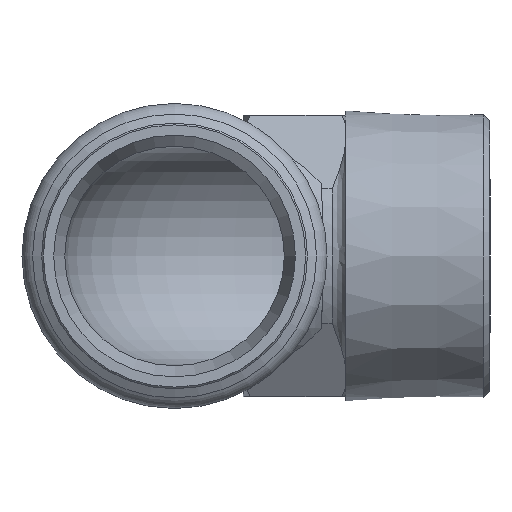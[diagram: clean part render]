
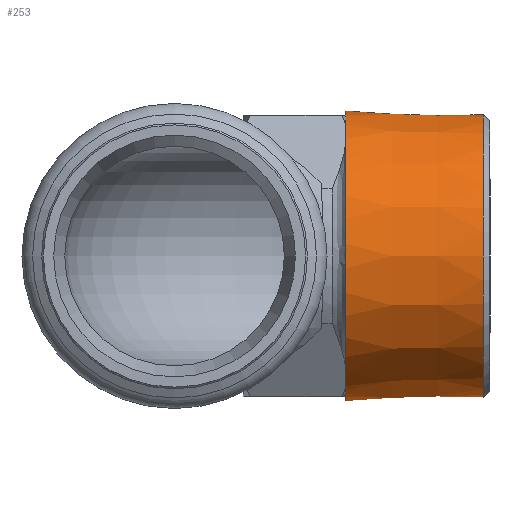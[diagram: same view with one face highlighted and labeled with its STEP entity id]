
A CAD part, left-side view. The second image highlights one B-rep face of the part: STEP entity #253.
In plain terms, the highlighted conical face has half-angle 1.79 degrees and reference radius 20.886 mm.
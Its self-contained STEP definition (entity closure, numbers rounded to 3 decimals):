
#112=CARTESIAN_POINT('',(42.589,-45.,0.));
#113=VERTEX_POINT('',#112);
#114=CARTESIAN_POINT('',(22.,-45.,0.));
#115=DIRECTION('',(0.0,-1.0,0.0));
#116=DIRECTION('',(-1.0,0.0,0.0));
#117=AXIS2_PLACEMENT_3D('',#114,#115,#116);
#118=CIRCLE('',#117,20.589);
#119=EDGE_CURVE('',#113,#113,#118,.T.);
#135=CARTESIAN_POINT('',(22.,-35.5,0.0));
#136=DIRECTION('',(0.,1.0,0.0));
#137=DIRECTION('',(1.0,0.0,0.0));
#138=AXIS2_PLACEMENT_3D('',#135,#136,#137);
#139=CONICAL_SURFACE('',#138,20.886,1.79);
#140=CARTESIAN_POINT('',(42.5,-25.,-5.459));
#141=VERTEX_POINT('',#140);
#142=CARTESIAN_POINT('',(42.5,-25.,5.459));
#143=VERTEX_POINT('',#142);
#144=CARTESIAN_POINT('',(22.0,-25.,0.0));
#145=DIRECTION('',(0.0,-1.0,0.0));
#146=DIRECTION('',(1.0,0.0,0.0));
#147=AXIS2_PLACEMENT_3D('',#144,#145,#146);
#148=CIRCLE('',#147,21.214);
#149=EDGE_CURVE('',#141,#143,#148,.T.);
#150=ORIENTED_EDGE('',*,*,#149,.T.);
#151=CARTESIAN_POINT('',(40.356,-25.,10.636));
#152=VERTEX_POINT('',#151);
#153=CARTESIAN_POINT('',(22.0,-25.,0.0));
#154=DIRECTION('',(0.0,-1.0,0.0));
#155=DIRECTION('',(1.0,0.0,0.0));
#156=AXIS2_PLACEMENT_3D('',#153,#154,#155);
#157=CIRCLE('',#156,21.214);
#158=EDGE_CURVE('',#143,#152,#157,.T.);
#159=ORIENTED_EDGE('',*,*,#158,.T.);
#160=CARTESIAN_POINT('',(32.636,-25.,18.356));
#161=VERTEX_POINT('',#160);
#162=CARTESIAN_POINT('',(22.0,-25.,0.0));
#163=DIRECTION('',(0.0,-1.0,0.0));
#164=DIRECTION('',(1.0,0.0,0.0));
#165=AXIS2_PLACEMENT_3D('',#162,#163,#164);
#166=CIRCLE('',#165,21.214);
#167=EDGE_CURVE('',#152,#161,#166,.T.);
#168=ORIENTED_EDGE('',*,*,#167,.T.);
#169=CARTESIAN_POINT('',(27.459,-25.,20.5));
#170=VERTEX_POINT('',#169);
#171=CARTESIAN_POINT('',(22.0,-25.,0.0));
#172=DIRECTION('',(0.0,-1.0,0.0));
#173=DIRECTION('',(1.0,0.0,0.0));
#174=AXIS2_PLACEMENT_3D('',#171,#172,#173);
#175=CIRCLE('',#174,21.214);
#176=EDGE_CURVE('',#161,#170,#175,.T.);
#177=ORIENTED_EDGE('',*,*,#176,.T.);
#178=CARTESIAN_POINT('',(16.541,-25.,20.5));
#179=VERTEX_POINT('',#178);
#180=CARTESIAN_POINT('',(22.0,-25.,0.0));
#181=DIRECTION('',(0.0,-1.0,0.0));
#182=DIRECTION('',(1.0,0.0,0.0));
#183=AXIS2_PLACEMENT_3D('',#180,#181,#182);
#184=CIRCLE('',#183,21.214);
#185=EDGE_CURVE('',#170,#179,#184,.T.);
#186=ORIENTED_EDGE('',*,*,#185,.T.);
#187=CARTESIAN_POINT('',(12.542,-25.,18.99));
#188=VERTEX_POINT('',#187);
#189=CARTESIAN_POINT('',(22.0,-25.,0.0));
#190=DIRECTION('',(0.0,-1.0,0.0));
#191=DIRECTION('',(1.0,0.0,0.0));
#192=AXIS2_PLACEMENT_3D('',#189,#190,#191);
#193=CIRCLE('',#192,21.214);
#194=EDGE_CURVE('',#179,#188,#193,.T.);
#195=ORIENTED_EDGE('',*,*,#194,.T.);
#196=CARTESIAN_POINT('',(12.542,-25.,-18.99));
#197=VERTEX_POINT('',#196);
#198=CARTESIAN_POINT('',(22.0,-25.,0.0));
#199=DIRECTION('',(0.0,-1.0,0.0));
#200=DIRECTION('',(1.0,0.0,0.0));
#201=AXIS2_PLACEMENT_3D('',#198,#199,#200);
#202=CIRCLE('',#201,21.214);
#203=EDGE_CURVE('',#188,#197,#202,.T.);
#204=ORIENTED_EDGE('',*,*,#203,.T.);
#205=CARTESIAN_POINT('',(16.541,-25.,-20.5));
#206=VERTEX_POINT('',#205);
#207=CARTESIAN_POINT('',(22.0,-25.,0.0));
#208=DIRECTION('',(0.0,-1.0,0.0));
#209=DIRECTION('',(1.0,0.0,0.0));
#210=AXIS2_PLACEMENT_3D('',#207,#208,#209);
#211=CIRCLE('',#210,21.214);
#212=EDGE_CURVE('',#197,#206,#211,.T.);
#213=ORIENTED_EDGE('',*,*,#212,.T.);
#214=CARTESIAN_POINT('',(27.459,-25.,-20.5));
#215=VERTEX_POINT('',#214);
#216=CARTESIAN_POINT('',(22.0,-25.,0.0));
#217=DIRECTION('',(0.0,-1.0,0.0));
#218=DIRECTION('',(1.0,0.0,0.0));
#219=AXIS2_PLACEMENT_3D('',#216,#217,#218);
#220=CIRCLE('',#219,21.214);
#221=EDGE_CURVE('',#206,#215,#220,.T.);
#222=ORIENTED_EDGE('',*,*,#221,.T.);
#223=CARTESIAN_POINT('',(32.636,-25.,-18.356));
#224=VERTEX_POINT('',#223);
#225=CARTESIAN_POINT('',(22.0,-25.,0.0));
#226=DIRECTION('',(0.0,-1.0,0.0));
#227=DIRECTION('',(1.0,0.0,0.0));
#228=AXIS2_PLACEMENT_3D('',#225,#226,#227);
#229=CIRCLE('',#228,21.214);
#230=EDGE_CURVE('',#215,#224,#229,.T.);
#231=ORIENTED_EDGE('',*,*,#230,.T.);
#232=CARTESIAN_POINT('',(40.356,-25.,-10.636));
#233=VERTEX_POINT('',#232);
#234=CARTESIAN_POINT('',(22.0,-25.,0.0));
#235=DIRECTION('',(0.0,-1.0,0.0));
#236=DIRECTION('',(1.0,0.0,0.0));
#237=AXIS2_PLACEMENT_3D('',#234,#235,#236);
#238=CIRCLE('',#237,21.214);
#239=EDGE_CURVE('',#224,#233,#238,.T.);
#240=ORIENTED_EDGE('',*,*,#239,.T.);
#241=CARTESIAN_POINT('',(22.0,-25.,0.0));
#242=DIRECTION('',(0.0,-1.0,0.0));
#243=DIRECTION('',(1.0,0.0,0.0));
#244=AXIS2_PLACEMENT_3D('',#241,#242,#243);
#245=CIRCLE('',#244,21.214);
#246=EDGE_CURVE('',#233,#141,#245,.T.);
#247=ORIENTED_EDGE('',*,*,#246,.T.);
#248=EDGE_LOOP('',(#150,#159,#168,#177,#186,#195,#204,#213,#222,#231,#240,#247));
#249=FACE_OUTER_BOUND('',#248,.T.);
#250=ORIENTED_EDGE('',*,*,#119,.F.);
#251=EDGE_LOOP('',(#250));
#252=FACE_BOUND('',#251,.T.);
#253=ADVANCED_FACE('',(#249,#252),#139,.T.);
